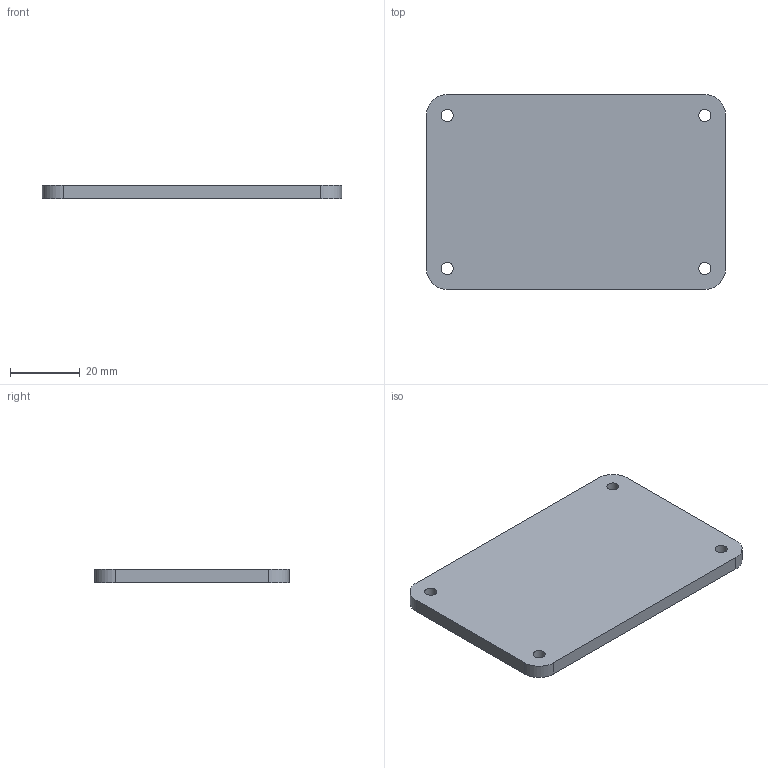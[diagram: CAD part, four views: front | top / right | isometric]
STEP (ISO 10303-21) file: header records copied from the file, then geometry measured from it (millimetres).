
FILE_DESCRIPTION(/* description */ (''),/* implementation_level */ '2;1');
FILE_NAME(/* name */ 'C:/#Projekte/Linear-Motor/STEP/pcb_plate.step',/* time_stamp */ '2019-01-06T11:26:33+01:00',/* author */ (''),/* organization */ (''),/* preprocessor_version */ 'ST-DEVELOPER v17.2',/* originating_system */ 'Autodesk Translation Framework v7.6.0.251',/* authorisation */ '');
FILE_SCHEMA (('AUTOMOTIVE_DESIGN { 1 0 10303 214 3 1 1 }'));
Length unit declared in the file: millimetre
Products named in the file (1): Fusion-Komponente
Bounding box: 86 x 56 x 4 mm (x, y, z)
Volume: 18986.5 mm3; surface area: 10764 mm2
Topology: 1 solids, 1 shells, 14 faces, 36 edges, 24 vertices
Faces by surface type: cylinder 8, plane 6
Full cylindrical faces by diameter (mm): 3.5 x4
Entity records: 492 total; most frequent: DIRECTION 82, CARTESIAN_POINT 75, ORIENTED_EDGE 72, EDGE_CURVE 36, AXIS2_PLACEMENT_3D 31, VERTEX_POINT 24, EDGE_LOOP 22, LINE 20
